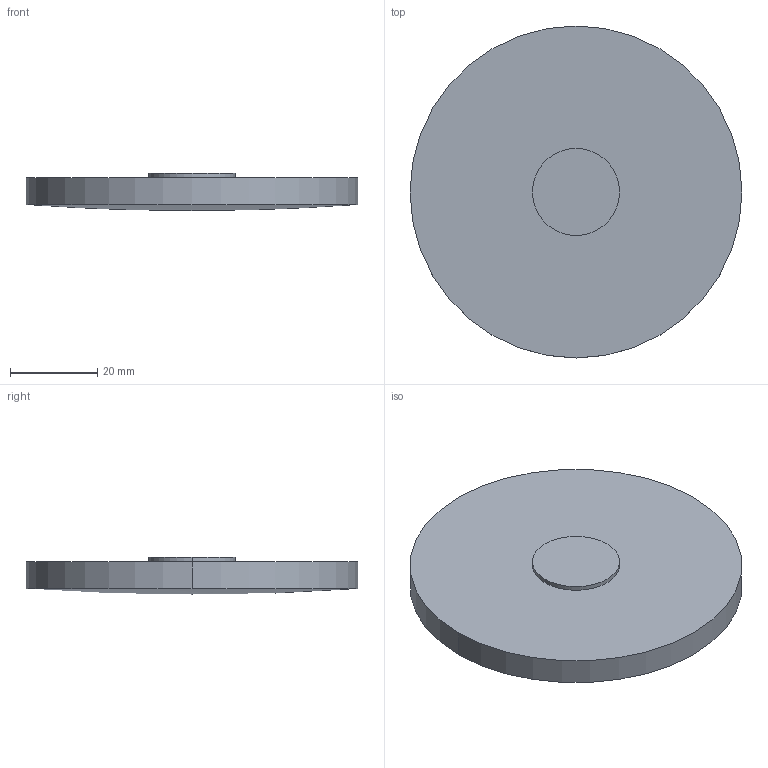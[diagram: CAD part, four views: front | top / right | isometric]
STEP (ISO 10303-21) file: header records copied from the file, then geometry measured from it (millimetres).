
FILE_DESCRIPTION(('STEP AP214'),'1');
FILE_NAME('LL-76-760.STEP','2020-03-09T17:41:20',(' '),(' '),'Spatial InterOp 3D',' ',' ');
FILE_SCHEMA(('AUTOMOTIVE_DESIGN { 1 0 10303 214 1 1 1 1 }'));
Length unit declared in the file: millimetre
Products named in the file (1): 1
Bounding box: 76.2 x 76.2 x 8.5 mm (x, y, z)
Volume: 31391.3 mm3; surface area: 11284.9 mm2
Topology: 2 solids, 2 shells, 9 faces, 16 edges, 9 vertices
Faces by surface type: cylinder 4, plane 3, sphere 2
Entity records: 229 total; most frequent: DIRECTION 46, CARTESIAN_POINT 34, ORIENTED_EDGE 28, AXIS2_PLACEMENT_3D 21, EDGE_CURVE 14, CIRCLE 10, ADVANCED_FACE 9, FACE_OUTER_BOUND 9
